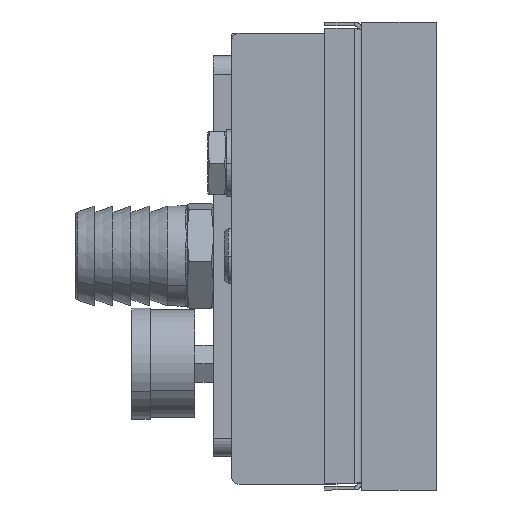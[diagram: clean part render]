
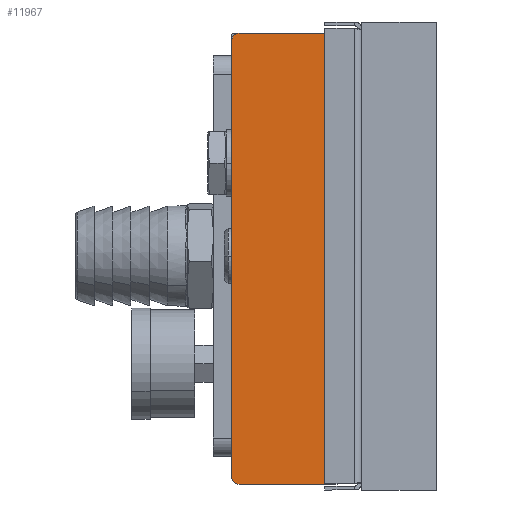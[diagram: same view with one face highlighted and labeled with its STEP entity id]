
A CAD part, left-side view. The second image highlights one B-rep face of the part: STEP entity #11967.
In plain terms, the highlighted planar face has unit normal (-1, 0, 0).
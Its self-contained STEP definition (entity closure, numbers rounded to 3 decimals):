
#162 = CARTESIAN_POINT ( 'NONE',  ( -219.048, 28.8, 59.539 ) ) ;
#175 = CARTESIAN_POINT ( 'NONE',  ( -219.048, 30.8, -59.961 ) ) ;
#351 = CARTESIAN_POINT ( 'NONE',  ( -219.048, 2.8, 59.539 ) ) ;
#365 = CARTESIAN_POINT ( 'NONE',  ( -219.048, 30.8, 57.539 ) ) ;
#439 = CARTESIAN_POINT ( 'NONE',  ( -219.048, 2.8, -61.961 ) ) ;
#446 = CARTESIAN_POINT ( 'NONE',  ( -219.048, 28.8, -61.961 ) ) ;
#469 = CARTESIAN_POINT ( 'NONE',  ( -219.048, 0.8, 57.539 ) ) ;
#540 = CARTESIAN_POINT ( 'NONE',  ( -219.048, 0.8, -59.961 ) ) ;
#1207 = CARTESIAN_POINT ( 'NONE',  ( -219.048, 2.8, -59.961 ) ) ;
#1209 = DIRECTION ( 'NONE',  ( -1., 0., 0. ) ) ;
#1212 = DIRECTION ( 'NONE',  ( 0., 0., 1. ) ) ;
#2066 = CARTESIAN_POINT ( 'NONE',  ( -219.048, 28.8, -59.961 ) ) ;
#2068 = DIRECTION ( 'NONE',  ( -1., 0., 0. ) ) ;
#2069 = DIRECTION ( 'NONE',  ( 0., 0., 1. ) ) ;
#4413 = LINE ( 'NONE', #4929, #4422 ) ;
#4422 = VECTOR ( 'NONE', #4927, 1000. ) ;
#4434 = LINE ( 'NONE', #4928, #4475 ) ;
#4442 = LINE ( 'NONE', #4918, #4452 ) ;
#4452 = VECTOR ( 'NONE', #4916, 1000. ) ;
#4475 = VECTOR ( 'NONE', #4910, 1000. ) ;
#4491 = LINE ( 'NONE', #4912, #4508 ) ;
#4508 = VECTOR ( 'NONE', #4900, 1000. ) ;
#4900 = DIRECTION ( 'NONE',  ( 0., -1., 0. ) ) ;
#4910 = DIRECTION ( 'NONE',  ( 0., 0., 1. ) ) ;
#4912 = CARTESIAN_POINT ( 'NONE',  ( -219.048, 30.8, -61.961 ) ) ;
#4916 = DIRECTION ( 'NONE',  ( 0., 0., -1. ) ) ;
#4918 = CARTESIAN_POINT ( 'NONE',  ( -219.048, 30.8, 59.539 ) ) ;
#4927 = DIRECTION ( 'NONE',  ( 0., 1., 0. ) ) ;
#4928 = CARTESIAN_POINT ( 'NONE',  ( -219.048, 0.8, 59.539 ) ) ;
#4929 = CARTESIAN_POINT ( 'NONE',  ( -219.048, 30.8, 59.539 ) ) ;
#6116 = AXIS2_PLACEMENT_3D ( 'NONE', #16745, #16747, #16749 ) ;
#11128 = EDGE_CURVE ( 'NONE', #21726, #21408, #4413, .T. ) ;
#11132 = EDGE_CURVE ( 'NONE', #21743, #21497, #4442, .T. ) ;
#11135 = EDGE_CURVE ( 'NONE', #21905, #21848, #4434, .T. ) ;
#11139 = EDGE_CURVE ( 'NONE', #21825, #21817, #4491, .T. ) ;
#11967 = ADVANCED_FACE ( 'NONE', ( #19220 ), #16732, .F. ) ;
#12990 = CIRCLE ( 'NONE', #15151, 2. ) ;
#13186 = CIRCLE ( 'NONE', #15095, 2. ) ;
#13427 = CIRCLE ( 'NONE', #15532, 2. ) ;
#13484 = CIRCLE ( 'NONE', #15503, 2. ) ;
#14415 = CARTESIAN_POINT ( 'NONE',  ( -219.048, 28.8, 57.539 ) ) ;
#14417 = DIRECTION ( 'NONE',  ( -1., 0., 0. ) ) ;
#14419 = DIRECTION ( 'NONE',  ( 0., 0., 1. ) ) ;
#14593 = CARTESIAN_POINT ( 'NONE',  ( -219.048, 2.8, 57.539 ) ) ;
#14594 = DIRECTION ( 'NONE',  ( -1., 0., 0. ) ) ;
#14596 = DIRECTION ( 'NONE',  ( 0., 0., 1. ) ) ;
#15095 = AXIS2_PLACEMENT_3D ( 'NONE', #2066, #2068, #2069 ) ;
#15151 = AXIS2_PLACEMENT_3D ( 'NONE', #1207, #1209, #1212 ) ;
#15503 = AXIS2_PLACEMENT_3D ( 'NONE', #14593, #14594, #14596 ) ;
#15532 = AXIS2_PLACEMENT_3D ( 'NONE', #14415, #14417, #14419 ) ;
#16732 = PLANE ( 'NONE',  #6116 ) ;
#16745 = CARTESIAN_POINT ( 'NONE',  ( -219.048, 0.8, 59.539 ) ) ;
#16747 = DIRECTION ( 'NONE',  ( 1., 0., 0. ) ) ;
#16749 = DIRECTION ( 'NONE',  ( 0., 0., 1. ) ) ;
#17717 = ORIENTED_EDGE ( 'NONE', *, *, #24493, .T. ) ;
#17760 = ORIENTED_EDGE ( 'NONE', *, *, #11128, .T. ) ;
#17766 = ORIENTED_EDGE ( 'NONE', *, *, #24107, .T. ) ;
#17784 = ORIENTED_EDGE ( 'NONE', *, *, #24983, .T. ) ;
#17820 = ORIENTED_EDGE ( 'NONE', *, *, #11132, .T. ) ;
#17854 = ORIENTED_EDGE ( 'NONE', *, *, #24949, .T. ) ;
#17886 = ORIENTED_EDGE ( 'NONE', *, *, #11135, .T. ) ;
#17895 = ORIENTED_EDGE ( 'NONE', *, *, #11139, .T. ) ;
#19220 = FACE_OUTER_BOUND ( 'NONE', #20059, .T. ) ;
#20059 = EDGE_LOOP ( 'NONE', ( #17895, #17766, #17886, #17784, #17760, #17854, #17820, #17717 ) ) ;
#21408 = VERTEX_POINT ( 'NONE', #162 ) ;
#21497 = VERTEX_POINT ( 'NONE', #175 ) ;
#21726 = VERTEX_POINT ( 'NONE', #351 ) ;
#21743 = VERTEX_POINT ( 'NONE', #365 ) ;
#21817 = VERTEX_POINT ( 'NONE', #439 ) ;
#21825 = VERTEX_POINT ( 'NONE', #446 ) ;
#21848 = VERTEX_POINT ( 'NONE', #469 ) ;
#21905 = VERTEX_POINT ( 'NONE', #540 ) ;
#24107 = EDGE_CURVE ( 'NONE', #21817, #21905, #12990, .T. ) ;
#24493 = EDGE_CURVE ( 'NONE', #21497, #21825, #13186, .T. ) ;
#24949 = EDGE_CURVE ( 'NONE', #21408, #21743, #13427, .T. ) ;
#24983 = EDGE_CURVE ( 'NONE', #21848, #21726, #13484, .T. ) ;
